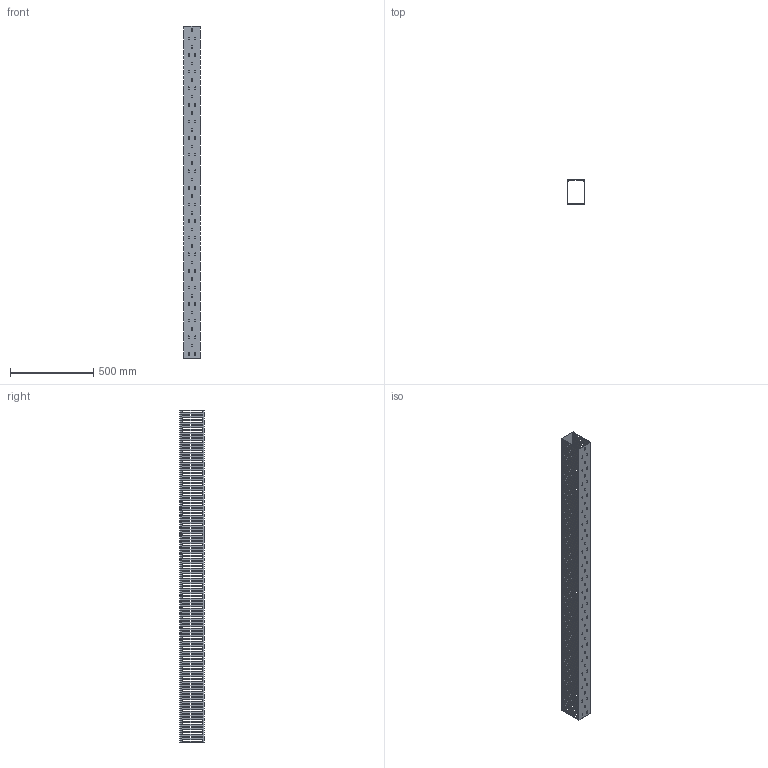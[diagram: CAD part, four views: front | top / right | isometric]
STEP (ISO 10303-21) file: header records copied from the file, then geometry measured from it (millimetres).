
FILE_DESCRIPTION (( 'STEP AP214' ), '1' );
FILE_NAME ('KD-1015-20-H.STEP', '2020-02-19T01:55:32', ( '' ), ( '' ), 'SwSTEP 2.0', 'SolidWorks 2018', '' );
FILE_SCHEMA (( 'AUTOMOTIVE_DESIGN' ));
Length unit declared in the file: millimetre
Products named in the file (3): KD-1015-20-H-body; KD-106-20-cover; KD-1015-20-H
Assembly tree (2 placements, depth 2):
  KD-1015-20-H
    KD-1015-20-H-body
    KD-106-20-cover
Bounding box: 100 x 150.17 x 2000 mm (x, y, z)
Volume: 1387850.1 mm3; surface area: 1773811 mm2
Topology: 2 solids, 2 shells, 1971 faces, 5901 edges, 3934 vertices
Faces by surface type: cylinder 1021, plane 950
Entity records: 68147 total; most frequent: DIRECTION 11895, CARTESIAN_POINT 11811, ORIENTED_EDGE 11802, EDGE_CURVE 5901, AXIS2_PLACEMENT_3D 4018, VERTEX_POINT 3934, LINE 3859, VECTOR 3859
